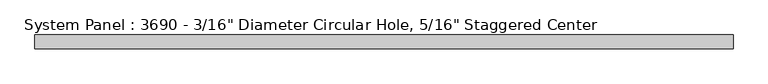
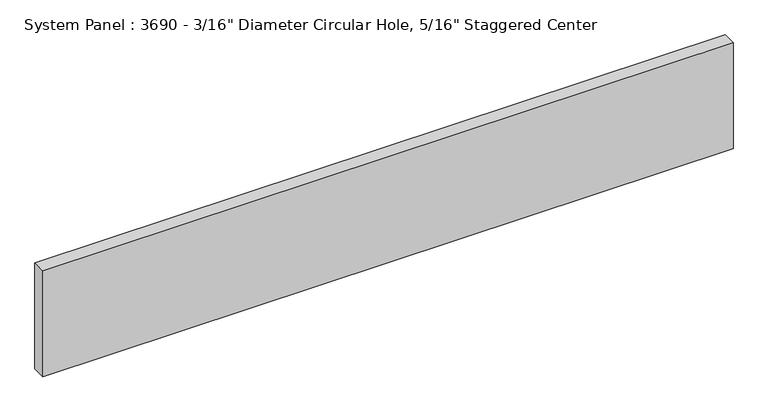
"""IFC4 building model written with IfcOpenShell, lengths in millimetres: plate geometry."""

from ifc_helpers import new_model, si_unit, origin, origin_with_axes, place, context, project, spatial, polyline, outline, extrude, source, transform, mapped, element, save


def plate_4c34311c(model_context):
    return source(origin(), model_context, "Body", "SweptSolid", [
        extrude(outline(polyline([(2500.0000002, -50.0), (-2500.0000002, -50.0), (-2500.0000002, 50.0), (2500.0000002, 50.0), (2500.0000002, -50.0)])), origin_with_axes(), (0.0, 0.0, 1.0), 810.1533686),
    ])


if __name__ == "__main__":
    model = new_model("IFC4")
    model_context = context("Model", 3, world=origin())
    ifc_project = project(units=[si_unit("LENGTHUNIT", "METRE", prefix="MILLI")], contexts=[model_context])
    site = spatial("IfcSite", under=ifc_project)
    building = spatial("IfcBuilding", under=site)
    placement = place(None, origin())
    plate_shape = plate_4c34311c(model_context)
    element("IfcPlate", 1, ObjectType="System Panel : 3690 - 3/16\" Diameter Circular Hole, 5/16\" Staggered Center", at=placement, inside=building, context=model_context, shape_type="MappedRepresentation", body=[
        mapped(plate_shape, transform((0.0, 0.0, 0.0), x_axis=(1.0, 0.0, 0.0), y_axis=(0.0, 1.0, 0.0), z_axis=(0.0, 0.0, 1.0))),
    ])
    save(model, "model.ifc")
